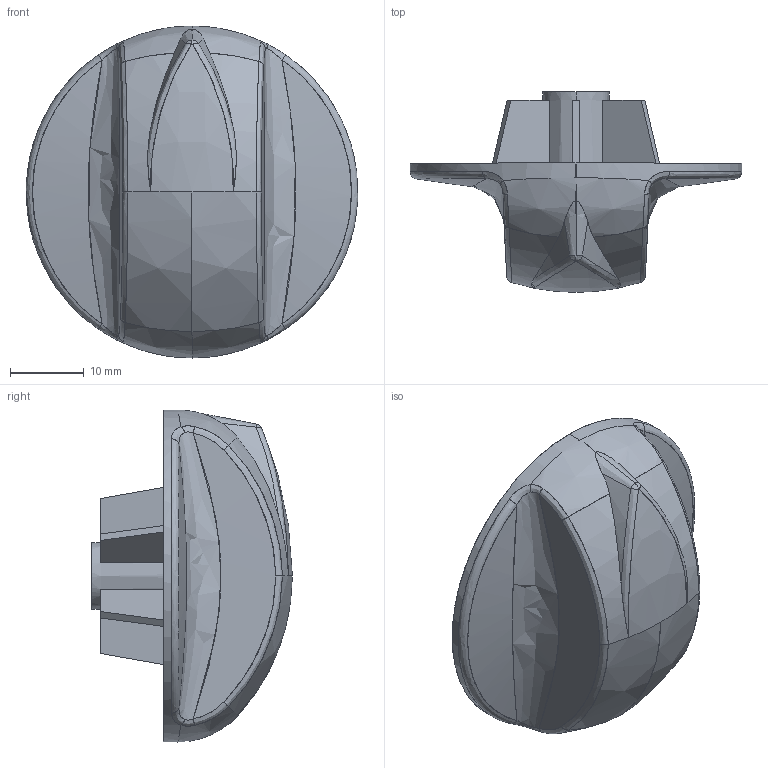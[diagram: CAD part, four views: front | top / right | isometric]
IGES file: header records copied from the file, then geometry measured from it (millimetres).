
Start section: Comment
Global section: file name: 148037202.igs; native system:  By UGS Corp.; preprocessor: XPlus GENERIC/IGES 3.0; author: Author; organization: Title; date: 20080207.142930; units: millimetre
Bounding box: 44.97 x 27.2 x 45 mm (x, y, z)
Surface area: 8332.6 mm2 (no closed solid volume)
Topology: 0 solids, 0 shells, 168 faces, 971 edges, 971 vertices
Faces by surface type: bspline 168
